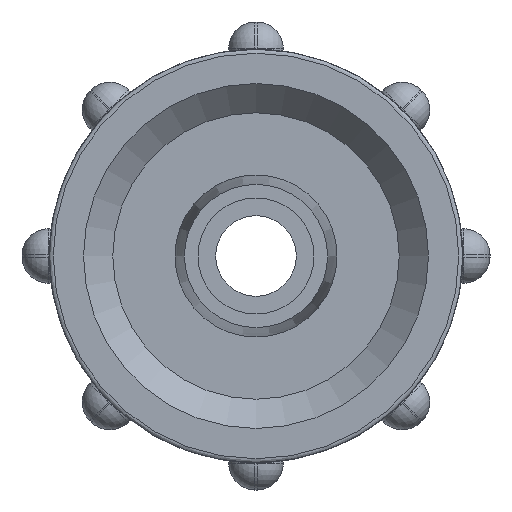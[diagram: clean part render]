
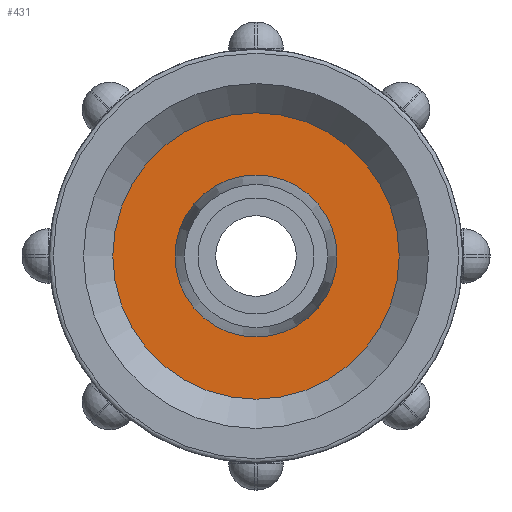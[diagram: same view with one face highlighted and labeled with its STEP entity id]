
A CAD part, front view. The second image highlights one B-rep face of the part: STEP entity #431.
In plain terms, the highlighted planar face has unit normal (0, -1, 0).
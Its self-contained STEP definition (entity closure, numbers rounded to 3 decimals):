
#162=FACE_BOUND('',#938,.T.);
#163=FACE_BOUND('',#939,.T.);
#272=PLANE('',#3560);
#431=ADVANCED_FACE('',(#162,#163),#272,.T.);
#938=EDGE_LOOP('',(#1506));
#939=EDGE_LOOP('',(#1507));
#1223=CIRCLE('',#3557,4.015);
#1224=CIRCLE('',#3559,7.1);
#1506=ORIENTED_EDGE('',*,*,#2694,.F.);
#1507=ORIENTED_EDGE('',*,*,#2695,.T.);
#2378=VERTEX_POINT('',#5175);
#2379=VERTEX_POINT('',#5178);
#2694=EDGE_CURVE('',#2378,#2378,#1223,.T.);
#2695=EDGE_CURVE('',#2379,#2379,#1224,.T.);
#3557=AXIS2_PLACEMENT_3D('',#5174,#4080,#4081);
#3559=AXIS2_PLACEMENT_3D('',#5177,#4084,#4085);
#3560=AXIS2_PLACEMENT_3D('',#5179,#4086,#4087);
#4080=DIRECTION('',(0.,-1.,0.));
#4081=DIRECTION('',(1.,0.,0.));
#4084=DIRECTION('',(0.,-1.,0.));
#4085=DIRECTION('',(1.,0.,0.));
#4086=DIRECTION('',(0.,-1.,0.));
#4087=DIRECTION('',(0.,0.,-1.));
#5174=CARTESIAN_POINT('',(0.,-17.5,0.));
#5175=CARTESIAN_POINT('',(4.015,-17.5,0.));
#5177=CARTESIAN_POINT('',(0.,-17.5,0.));
#5178=CARTESIAN_POINT('',(7.1,-17.5,0.));
#5179=CARTESIAN_POINT('',(-7.81,-17.5,7.81));
